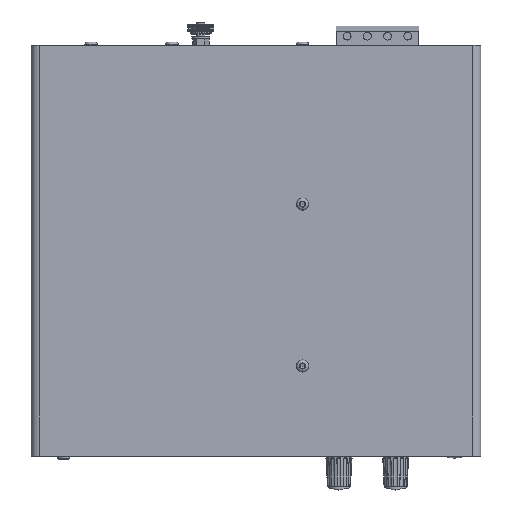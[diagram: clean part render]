
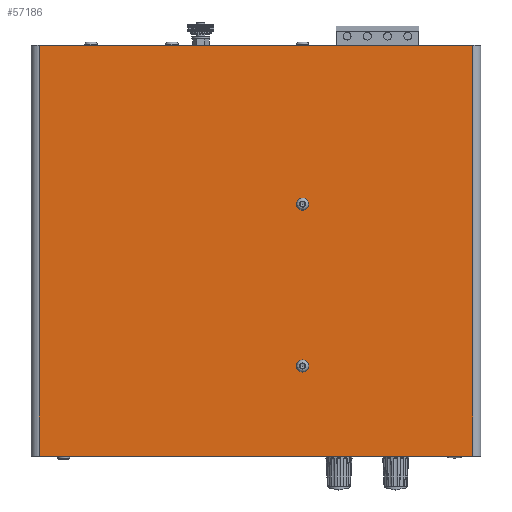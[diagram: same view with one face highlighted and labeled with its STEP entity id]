
A CAD part, top view. The second image highlights one B-rep face of the part: STEP entity #57186.
In plain terms, the highlighted planar face has unit normal (0, 0, 1).
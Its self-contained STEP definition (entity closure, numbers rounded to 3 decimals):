
#2585=FACE_BOUND('',#10605,.T.);
#2586=FACE_BOUND('',#10606,.T.);
#4307=PLANE('',#61841);
#6970=FACE_OUTER_BOUND('',#10604,.T.);
#10604=EDGE_LOOP('',(#46461,#46462,#46463,#46464));
#10605=EDGE_LOOP('',(#46465));
#10606=EDGE_LOOP('',(#46466));
#14938=LINE('',#99124,#19074);
#14941=LINE('',#99134,#19077);
#14944=LINE('',#99143,#19080);
#14946=LINE('',#99147,#19082);
#19074=VECTOR('',#73837,10.);
#19077=VECTOR('',#73848,10.);
#19080=VECTOR('',#73859,10.);
#19082=VECTOR('',#73865,10.);
#21709=CIRCLE('',#61842,3.);
#21710=CIRCLE('',#61843,3.);
#26480=VERTEX_POINT('',#99121);
#26481=VERTEX_POINT('',#99123);
#26484=VERTEX_POINT('',#99133);
#26486=VERTEX_POINT('',#99141);
#26487=VERTEX_POINT('',#99148);
#26488=VERTEX_POINT('',#99150);
#33413=EDGE_CURVE('',#26480,#26481,#14938,.T.);
#33418=EDGE_CURVE('',#26484,#26481,#14941,.T.);
#33423=EDGE_CURVE('',#26480,#26486,#14944,.T.);
#33425=EDGE_CURVE('',#26484,#26486,#14946,.T.);
#33426=EDGE_CURVE('',#26487,#26487,#21709,.T.);
#33427=EDGE_CURVE('',#26488,#26488,#21710,.T.);
#46461=ORIENTED_EDGE('',*,*,#33423,.T.);
#46462=ORIENTED_EDGE('',*,*,#33425,.F.);
#46463=ORIENTED_EDGE('',*,*,#33418,.T.);
#46464=ORIENTED_EDGE('',*,*,#33413,.F.);
#46465=ORIENTED_EDGE('',*,*,#33426,.T.);
#46466=ORIENTED_EDGE('',*,*,#33427,.T.);
#57186=ADVANCED_FACE('',(#6970,#2585,#2586),#4307,.T.);
#61841=AXIS2_PLACEMENT_3D('',#99146,#73863,#73864);
#61842=AXIS2_PLACEMENT_3D('',#99149,#73866,#73867);
#61843=AXIS2_PLACEMENT_3D('',#99151,#73868,#73869);
#73837=DIRECTION('',(-1.,0.,0.));
#73848=DIRECTION('',(0.,-1.,0.));
#73859=DIRECTION('',(0.,1.,0.));
#73863=DIRECTION('center_axis',(0.,0.,
1.));
#73864=DIRECTION('ref_axis',(1.,0.,0.));
#73865=DIRECTION('',(1.,0.,0.));
#73866=DIRECTION('center_axis',(0.,0.,
-1.));
#73867=DIRECTION('ref_axis',(-1.,0.,0.));
#73868=DIRECTION('center_axis',(0.,0.,
-1.));
#73869=DIRECTION('ref_axis',(-1.,0.,0.));
#99121=CARTESIAN_POINT('',(107.,-101.5,52.));
#99123=CARTESIAN_POINT('',(-107.,-101.5,52.));
#99124=CARTESIAN_POINT('',(111.,-101.5,52.));
#99133=CARTESIAN_POINT('',(-107.,101.5,52.));
#99134=CARTESIAN_POINT('',(-107.,50.75,52.));
#99141=CARTESIAN_POINT('',(107.,101.5,52.));
#99143=CARTESIAN_POINT('',(107.,-50.75,52.));
#99146=CARTESIAN_POINT('Origin',(0.,0.,
52.));
#99147=CARTESIAN_POINT('',(-111.,101.5,52.));
#99148=CARTESIAN_POINT('',(26.,23.,52.));
#99149=CARTESIAN_POINT('Origin',(23.,23.,52.));
#99150=CARTESIAN_POINT('',(26.,-57.,52.));
#99151=CARTESIAN_POINT('Origin',(23.,-57.,52.));
